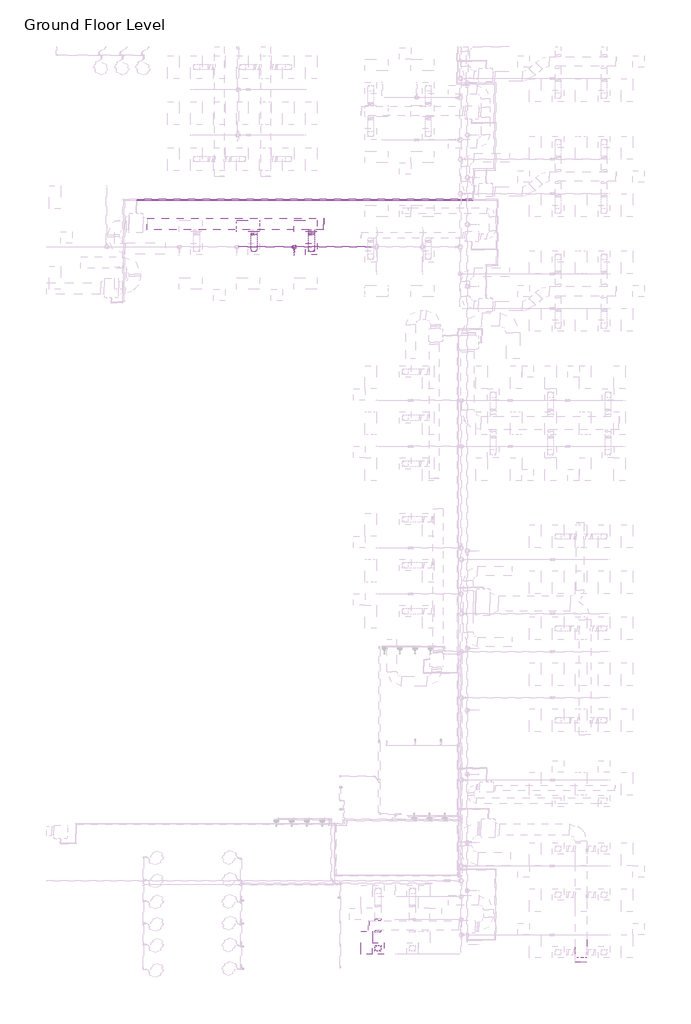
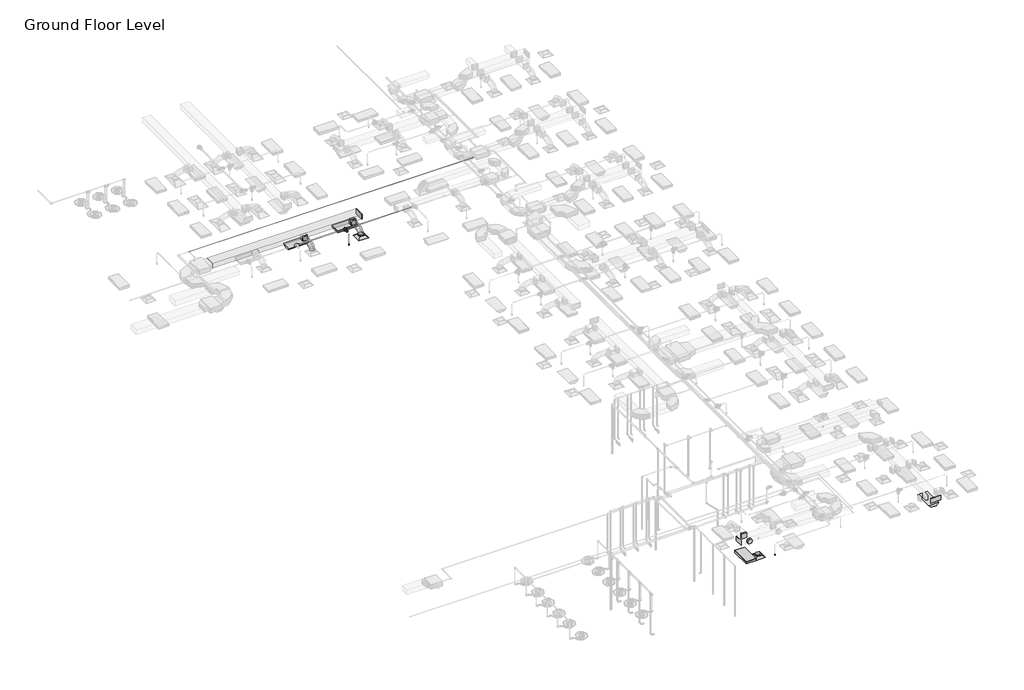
# One storey, part 13 of 74: 10 duct fittings, 6 pipe segments, 5 duct segments, 4 light fixtures, 2 air terminals, 2 fire suppression terminals, 2 pipe fittings.
"""IFC4 building model written with IfcOpenShell, lengths in millimetres."""

from ifc_helpers import new_model, si_unit, point, frame, frame_2d, origin, place, context, project, spatial, polyline, circle_curve, ellipse_curve, trimmed, segment, composite_curve, outline, extrude, transform, mapped, element, save
from ifc_brep_helpers import plane_surface, cylinder_surface, advanced_brep
from components import m_return_diffuser_600_x_600_face_300_x_300_connection_ff221211, m_rectangular_endcap_standard_72d4d00d, m_rectangular_endcap_standard_0f0ff112, m_rectangular_takeoff_standard_2be5eba1, m_rectangular_to_round_transition_angle_45_degree_641efff0, m_round_takeoff_standard_603b0510, m_sprinkler_dry_pendent_hosted_15_mm_dry_pendent_9bda8e11, m_emergency_recessed_lighting_fixture_600x1200_277_5b10b25d, m_troffer_light_parabolic_rectangular1_0600x1200mm_4_lamp_86473d4a, m_reducer_flanged_cs_class_150_standard_678fb8eb, m_tee_round_base_flanged_cs_class_150_standard_9c9133d0

model = new_model("IFC4")

# Units and contexts
model_context = context("Model", 3, world=origin())
ifc_project = project(units=[si_unit("LENGTHUNIT", "METRE", prefix="MILLI")], contexts=[model_context])

# Site, building, storey
site = spatial("IfcSite", under=ifc_project)
building = spatial("IfcBuilding", under=site)
storey = spatial("IfcBuildingStorey", under=building, Name="Ground Floor Level", Elevation=900.0)

# Air terminals
placement = place(None, origin())
m_return_diffuser_600_x_600_face_300_x_300_connection_shape = m_return_diffuser_600_x_600_face_300_x_300_connection_ff221211(model_context)
element("IfcAirTerminal", 1, ObjectType="M_Supply Diffuser : 600 x 600 Face 300 x 300 Connection", at=placement, inside=storey, context=model_context, shape_type="MappedRepresentation", body=[
    mapped(m_return_diffuser_600_x_600_face_300_x_300_connection_shape, transform((-2137.2327605, -3064.7846466, 3650.0), x_axis=(1.0, 0.0, 0.0), y_axis=(0.0, 1.0, 0.0), z_axis=(0.0, 0.0, 1.0))),
])
element("IfcAirTerminal", 2, ObjectType="M_Supply Diffuser : 600 x 600 Face 300 x 300 Connection", at=placement, inside=storey, context=model_context, shape_type="MappedRepresentation", body=[
    mapped(m_return_diffuser_600_x_600_face_300_x_300_connection_shape, transform((1342.7672394, -39564.7846466, 3650.0), x_axis=(1.0, 0.0, 0.0), y_axis=(0.0, 1.0, 0.0), z_axis=(0.0, 0.0, 1.0))),
])

# Duct fittings
m_rectangular_endcap_standard_shape = m_rectangular_endcap_standard_72d4d00d(model_context)
element("IfcDuctFitting", 3, ObjectType="M_Rectangular Endcap : Standard", at=placement, inside=storey, context=model_context, shape_type="MappedRepresentation", body=[
    mapped(m_rectangular_endcap_standard_shape, transform((877.3672394, -38372.6128682, 4100.0), x_axis=(-0.9999999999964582, 0.0, -2.6615447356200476e-06), y_axis=(0.0, -1.0000000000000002, 0.0), z_axis=(-2.6615447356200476e-06, 0.0, 0.9999999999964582))),
])
m_rectangular_endcap_standard_2_shape = m_rectangular_endcap_standard_0f0ff112(model_context)
element("IfcDuctFitting", 4, ObjectType="M_Rectangular Endcap : Standard", at=placement, inside=storey, context=model_context, shape_type="MappedRepresentation", body=[
    mapped(m_rectangular_endcap_standard_2_shape, transform((-1501.8327605, -1768.2846466, 4099.9873731), x_axis=(0.9999999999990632, 0.0, -1.368824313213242e-06), y_axis=(0.0, 1.0, 0.0), z_axis=(1.368824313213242e-06, 0.0, 0.9999999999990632))),
])
element("IfcDuctFitting", 5, ObjectType="M_Rectangular Endcap : Standard", at=placement, inside=storey, context=model_context, shape_type="MappedRepresentation", body=[
    mapped(m_rectangular_endcap_standard_2_shape, transform((11933.8644074, -40264.7726336, 4099.9875), x_axis=(0.0, -1.0, 0.0), y_axis=(1.0, 0.0, 0.0), z_axis=(0.0, 0.0, 1.0))),
])
m_rectangular_takeoff_standard_shape = m_rectangular_takeoff_standard_2be5eba1(model_context)
element("IfcDuctFitting", 6, ObjectType="M_Rectangular Takeoff : Standard", at=placement, inside=storey, context=model_context, shape_type="MappedRepresentation", body=[
    mapped(m_rectangular_takeoff_standard_shape, transform((-2137.2327605, -2068.2846466, 4099.9882429), x_axis=(0.0, -1.0, 0.0), y_axis=(-1.0, 0.0, 0.0), z_axis=(0.0, 0.0, -1.0))),
])
element("IfcDuctFitting", 7, ObjectType="M_Rectangular Takeoff : Standard", at=placement, inside=storey, context=model_context, shape_type="MappedRepresentation", body=[
    mapped(m_rectangular_takeoff_standard_shape, transform((1342.7672394, -38122.6128682, 4100.0), x_axis=(0.0, 1.0, 0.0), y_axis=(1.0, 0.0, 0.0), z_axis=(0.0, 0.0, -1.0))),
])
m_rectangular_to_round_transition_angle_45_degree_shape = m_rectangular_to_round_transition_angle_45_degree_641efff0(model_context)
element("IfcDuctFitting", 8, ObjectType="M_Rectangular to Round Transition - Angle : 45 Degree", at=placement, inside=storey, context=model_context, shape_type="MappedRepresentation", body=[
    mapped(m_rectangular_to_round_transition_angle_45_degree_shape, transform((-2137.2327605, -3064.7846466, 3751.6), x_axis=(0.0, 0.0, 1.0), y_axis=(-1.0, 0.0, 0.0), z_axis=(0.0, -1.0, 0.0))),
])
element("IfcDuctFitting", 9, ObjectType="M_Rectangular to Round Transition - Angle : 45 Degree", at=placement, inside=storey, context=model_context, shape_type="MappedRepresentation", body=[
    mapped(m_rectangular_to_round_transition_angle_45_degree_shape, transform((-2137.2327605, -2237.4369582, 4099.9882429), x_axis=(0.0, -1.0, 0.0), y_axis=(1.0, 0.0, 0.0), z_axis=(0.0, 0.0, 1.0))),
])
element("IfcDuctFitting", 10, ObjectType="M_Rectangular to Round Transition - Angle : 45 Degree", at=placement, inside=storey, context=model_context, shape_type="MappedRepresentation", body=[
    mapped(m_rectangular_to_round_transition_angle_45_degree_shape, transform((-5137.2327605, -2237.4410647, 4099.9923494), x_axis=(0.0, -1.0, 0.0), y_axis=(1.0, 0.0, 0.0), z_axis=(0.0, 0.0, 1.0))),
])
element("IfcDuctFitting", 11, ObjectType="M_Rectangular to Round Transition - Angle : 45 Degree", at=placement, inside=storey, context=model_context, shape_type="MappedRepresentation", body=[
    mapped(m_rectangular_to_round_transition_angle_45_degree_shape, transform((1342.7672394, -39564.7846466, 3751.6), x_axis=(0.0, 0.0, 1.0), y_axis=(-1.0, 0.0, 0.0), z_axis=(0.0, -1.0, 0.0))),
])
m_round_takeoff_standard_shape = m_round_takeoff_standard_603b0510(model_context)
element("IfcDuctFitting", 12, ObjectType="M_Round Takeoff : Standard", at=placement, inside=storey, context=model_context, shape_type="MappedRepresentation", body=[
    mapped(m_round_takeoff_standard_shape, transform((1342.7672394, -38622.6128682, 4100.0), x_axis=(0.0, -1.0, 0.0), y_axis=(-1.0, 0.0, 0.0), z_axis=(0.0, 0.0, -1.0))),
])

# Duct segments
element("IfcDuctSegment", 13, ObjectType="Flex - Round", at=placement, inside=storey, context=model_context, shape_type="AdvancedBrep", body=[
    advanced_brep(
    [(-1987.2327605, -3064.7846466, 3826.6), (-2137.2327605, -3214.7846466, 3826.6), (-2287.2327605, -3064.7846466, 3826.6), (-2137.2327605, -2914.7846466, 3826.6), (-1987.2327605, -3064.7846466, 3857.9382049), (-2137.2327605, -3214.7846466, 3883.5820304), (-2287.2327605, -3064.7846466, 3857.9382049), (-2137.2327605, -2914.7846466, 3832.2943795), (-1987.2327605, -3047.768388, 3906.2507872), (-2137.2327605, -3181.5056265, 3978.0678652), (-2287.2327605, -3047.768388, 3906.2507872), (-2137.2327605, -2914.0311496, 3834.4337093), (-1987.2327605, -3000.5836201, 3968.710775), (-2137.2327605, -3104.787507, 4079.622096), (-2287.2327605, -3000.5836201, 3968.710775), (-2137.2327605, -2896.3797333, 3857.7994541), (-1987.2327605, -2929.0263545, 4016.0680579), (-2137.2327605, -2997.957239, 4150.3233892), (-2287.2327605, -2929.0263545, 4016.0680579), (-2137.2327605, -2860.09547, 3881.8127266), (-1987.2327605, -2838.8926027, 4050.4107303), (-2137.2327605, -2882.4498996, 4194.3338808), (-2287.2327605, -2838.8926027, 4050.4107303), (-2137.2327605, -2795.3353058, 3906.4875799), (-1987.2327605, -2735.9783764, 4073.8268868), (-2137.2327605, -2762.5360145, 4221.6179832), (-2287.2327605, -2735.9783764, 4073.8268868), (-2137.2327605, -2709.4207382, 3926.0357904), (-1987.2327605, -2626.0796872, 4088.4046218), (-2137.2327605, -2641.2277335, 4237.7091667), (-2287.2327605, -2626.0796872, 4088.4046218), (-2137.2327605, -2610.9316408, 3939.1000769), (-1987.2327605, -2514.9925467, 4096.2320299), (-2137.2327605, -2522.4956529, 4246.0752516), (-2287.2327605, -2514.9925467, 4096.2320299), (-2137.2327605, -2507.4894404, 3946.3888082), (-1987.2327605, -2408.5129665, 4099.3972054), (-2137.2327605, -2411.2031539, 4249.3834943), (-2287.2327605, -2408.5129665, 4099.3972054), (-2137.2327605, -2405.822779, 3949.4109165), (-1987.2327605, -2312.4369582, 4099.9882429), (-2137.2327605, -2311.5142102, 3949.9910811), (-2287.2327605, -2312.4369582, 4099.9882429), (-2137.2327605, -2313.3597063, 4249.9854047)],
    [
        (0, 1, circle_curve(frame((-2137.2327605, -3064.7846466, 3826.6), z_axis=(0.0, 0.0, -1.0), x_axis=(1.0, 0.0, 0.0)), 150.0)),
        (1, 2, circle_curve(frame((-2137.2327605, -3064.7846466, 3826.6), z_axis=(0.0, 0.0, -1.0), x_axis=(1.0, 0.0, 0.0)), 150.0)),
        (2, 3, circle_curve(frame((-2137.2327605, -3064.7846466, 3826.6), z_axis=(0.0, 0.0, -1.0), x_axis=(1.0, 0.0, 0.0)), 150.0)),
        (3, 0, circle_curve(frame((-2137.2327605, -3064.7846466, 3826.6), z_axis=(0.0, 0.0, -1.0), x_axis=(1.0, 0.0, 0.0)), 150.0)),
        (0, 4),
        (4, 5, ellipse_curve(frame((-2137.2327605, -3064.7846466, 3857.9382049), z_axis=(0.0, -0.1685139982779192, -0.9856992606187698), x_axis=(0.0, 0.9856992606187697, -0.1685139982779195)), 152.1762326, 150.0)),
        (5, 1),
        (5, 6, ellipse_curve(frame((-2137.2327605, -3064.7846466, 3857.9382049), z_axis=(0.0, -0.1685139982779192, -0.9856992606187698), x_axis=(0.0, 0.9856992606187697, -0.1685139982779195)), 152.1762326, 150.0)),
        (6, 2),
        (6, 7, ellipse_curve(frame((-2137.2327605, -3064.7846466, 3857.9382049), z_axis=(0.0, -0.1685139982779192, -0.9856992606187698), x_axis=(0.0, 0.9856992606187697, -0.1685139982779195)), 152.1762326, 150.0)),
        (7, 3),
        (7, 4, ellipse_curve(frame((-2137.2327605, -3064.7846466, 3857.9382049), z_axis=(0.0, -0.1685139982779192, -0.9856992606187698), x_axis=(0.0, 0.9856992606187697, -0.1685139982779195)), 152.1762326, 150.0)),
        (4, 8),
        (8, 9, ellipse_curve(frame((-2137.2327605, -3047.768388, 3906.2507872), z_axis=(0.0, -0.4731022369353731, -0.8810075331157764), x_axis=(0.0, 0.8810075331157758, -0.47310223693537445)), 151.8003348, 150.0)),
        (9, 5),
        (9, 10, ellipse_curve(frame((-2137.2327605, -3047.768388, 3906.2507872), z_axis=(0.0, -0.4731022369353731, -0.8810075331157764), x_axis=(0.0, 0.8810075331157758, -0.47310223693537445)), 151.8003348, 150.0)),
        (10, 6),
        (10, 11, ellipse_curve(frame((-2137.2327605, -3047.768388, 3906.2507872), z_axis=(0.0, -0.4731022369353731, -0.8810075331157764), x_axis=(0.0, 0.8810075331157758, -0.47310223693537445)), 151.8003348, 150.0)),
        (11, 7),
        (11, 8, ellipse_curve(frame((-2137.2327605, -3047.768388, 3906.2507872), z_axis=(0.0, -0.4731022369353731, -0.8810075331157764), x_axis=(0.0, 0.8810075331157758, -0.47310223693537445)), 151.8003348, 150.0)),
        (8, 12),
        (12, 13, ellipse_curve(frame((-2137.2327605, -3000.5836201, 3968.710775), z_axis=(0.0, -0.728800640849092, -0.6847259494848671), x_axis=(0.0, 0.6847259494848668, -0.7288006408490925)), 152.1833472, 150.0)),
        (13, 9),
        (13, 14, ellipse_curve(frame((-2137.2327605, -3000.5836201, 3968.710775), z_axis=(0.0, -0.728800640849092, -0.6847259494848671), x_axis=(0.0, 0.6847259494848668, -0.7288006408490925)), 152.1833472, 150.0)),
        (14, 10),
        (14, 15, ellipse_curve(frame((-2137.2327605, -3000.5836201, 3968.710775), z_axis=(0.0, -0.728800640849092, -0.6847259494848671), x_axis=(0.0, 0.6847259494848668, -0.7288006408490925)), 152.1833472, 150.0)),
        (15, 11),
        (15, 12, ellipse_curve(frame((-2137.2327605, -3000.5836201, 3968.710775), z_axis=(0.0, -0.728800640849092, -0.6847259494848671), x_axis=(0.0, 0.6847259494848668, -0.7288006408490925)), 152.1833472, 150.0)),
        (12, 16),
        (16, 17, ellipse_curve(frame((-2137.2327605, -2929.0263545, 4016.0680579), z_axis=(0.0, -0.8895967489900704, -0.456746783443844), x_axis=(0.0, 0.45674678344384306, -0.8895967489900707)), 150.917066, 150.0)),
        (17, 13),
        (17, 18, ellipse_curve(frame((-2137.2327605, -2929.0263545, 4016.0680579), z_axis=(0.0, -0.8895967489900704, -0.456746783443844), x_axis=(0.0, 0.45674678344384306, -0.8895967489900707)), 150.917066, 150.0)),
        (18, 14),
        (18, 19, ellipse_curve(frame((-2137.2327605, -2929.0263545, 4016.0680579), z_axis=(0.0, -0.8895967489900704, -0.456746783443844), x_axis=(0.0, 0.45674678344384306, -0.8895967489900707)), 150.917066, 150.0)),
        (19, 15),
        (19, 16, ellipse_curve(frame((-2137.2327605, -2929.0263545, 4016.0680579), z_axis=(0.0, -0.8895967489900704, -0.456746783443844), x_axis=(0.0, 0.45674678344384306, -0.8895967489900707)), 150.917066, 150.0)),
        (16, 20),
        (20, 21, ellipse_curve(frame((-2137.2327605, -2838.8926027, 4050.4107303), z_axis=(0.0, -0.9571272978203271, -0.2896676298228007), x_axis=(0.0, 0.28966762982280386, -0.957127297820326)), 150.369915, 150.0)),
        (21, 17),
        (21, 22, ellipse_curve(frame((-2137.2327605, -2838.8926027, 4050.4107303), z_axis=(0.0, -0.9571272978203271, -0.2896676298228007), x_axis=(0.0, 0.28966762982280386, -0.957127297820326)), 150.369915, 150.0)),
        (22, 18),
        (22, 23, ellipse_curve(frame((-2137.2327605, -2838.8926027, 4050.4107303), z_axis=(0.0, -0.9571272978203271, -0.2896676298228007), x_axis=(0.0, 0.28966762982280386, -0.957127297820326)), 150.369915, 150.0)),
        (23, 19),
        (23, 20, ellipse_curve(frame((-2137.2327605, -2838.8926027, 4050.4107303), z_axis=(0.0, -0.9571272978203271, -0.2896676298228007), x_axis=(0.0, 0.28966762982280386, -0.957127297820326)), 150.369915, 150.0)),
        (20, 24),
        (24, 25, ellipse_curve(frame((-2137.2327605, -2735.9783764, 4073.8268868), z_axis=(0.0, -0.9842352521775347, -0.1768642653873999), x_axis=(0.0, 0.1768642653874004, -0.9842352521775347)), 150.1583042, 150.0)),
        (25, 21),
        (25, 26, ellipse_curve(frame((-2137.2327605, -2735.9783764, 4073.8268868), z_axis=(0.0, -0.9842352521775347, -0.1768642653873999), x_axis=(0.0, 0.1768642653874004, -0.9842352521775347)), 150.1583042, 150.0)),
        (26, 22),
        (26, 27, ellipse_curve(frame((-2137.2327605, -2735.9783764, 4073.8268868), z_axis=(0.0, -0.9842352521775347, -0.1768642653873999), x_axis=(0.0, 0.1768642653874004, -0.9842352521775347)), 150.1583042, 150.0)),
        (27, 23),
        (27, 24, ellipse_curve(frame((-2137.2327605, -2735.9783764, 4073.8268868), z_axis=(0.0, -0.9842352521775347, -0.1768642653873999), x_axis=(0.0, 0.1768642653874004, -0.9842352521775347)), 150.1583042, 150.0)),
        (24, 28),
        (28, 29, ellipse_curve(frame((-2137.2327605, -2626.0796872, 4088.4046218), z_axis=(0.0, -0.9948925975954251, -0.10093918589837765), x_axis=(0.0, 0.10093918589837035, -0.9948925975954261)), 150.071018, 150.0)),
        (29, 25),
        (29, 30, ellipse_curve(frame((-2137.2327605, -2626.0796872, 4088.4046218), z_axis=(0.0, -0.9948925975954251, -0.10093918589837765), x_axis=(0.0, 0.10093918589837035, -0.9948925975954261)), 150.071018, 150.0)),
        (30, 26),
        (30, 31, ellipse_curve(frame((-2137.2327605, -2626.0796872, 4088.4046218), z_axis=(0.0, -0.9948925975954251, -0.10093918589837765), x_axis=(0.0, 0.10093918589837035, -0.9948925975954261)), 150.071018, 150.0)),
        (31, 27),
        (31, 28, ellipse_curve(frame((-2137.2327605, -2626.0796872, 4088.4046218), z_axis=(0.0, -0.9948925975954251, -0.10093918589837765), x_axis=(0.0, 0.10093918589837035, -0.9948925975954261)), 150.071018, 150.0)),
        (28, 32),
        (32, 33, ellipse_curve(frame((-2137.2327605, -2514.9925467, 4096.2320299), z_axis=(0.0, -0.9987486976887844, -0.050010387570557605), x_axis=(0.0, 0.05001038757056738, -0.9987486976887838)), 150.0309558, 150.0)),
        (33, 29),
        (33, 34, ellipse_curve(frame((-2137.2327605, -2514.9925467, 4096.2320299), z_axis=(0.0, -0.9987486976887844, -0.050010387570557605), x_axis=(0.0, 0.05001038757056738, -0.9987486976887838)), 150.0309558, 150.0)),
        (34, 30),
        (34, 35, ellipse_curve(frame((-2137.2327605, -2514.9925467, 4096.2320299), z_axis=(0.0, -0.9987486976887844, -0.050010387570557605), x_axis=(0.0, 0.05001038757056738, -0.9987486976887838)), 150.0309558, 150.0)),
        (35, 31),
        (35, 32, ellipse_curve(frame((-2137.2327605, -2514.9925467, 4096.2320299), z_axis=(0.0, -0.9987486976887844, -0.050010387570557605), x_axis=(0.0, 0.05001038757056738, -0.9987486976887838)), 150.0309558, 150.0)),
        (32, 36),
        (36, 37, ellipse_curve(frame((-2137.2327605, -2408.5129665, 4099.3972054), z_axis=(0.0, -0.9998391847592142, -0.017933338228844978), x_axis=(0.0, 0.017933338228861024, -0.9998391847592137)), 150.0104128, 150.0)),
        (37, 33),
        (37, 38, ellipse_curve(frame((-2137.2327605, -2408.5129665, 4099.3972054), z_axis=(0.0, -0.9998391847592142, -0.017933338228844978), x_axis=(0.0, 0.017933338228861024, -0.9998391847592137)), 150.0104128, 150.0)),
        (38, 34),
        (38, 39, ellipse_curve(frame((-2137.2327605, -2408.5129665, 4099.3972054), z_axis=(0.0, -0.9998391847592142, -0.017933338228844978), x_axis=(0.0, 0.017933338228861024, -0.9998391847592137)), 150.0104128, 150.0)),
        (39, 35),
        (39, 36, ellipse_curve(frame((-2137.2327605, -2408.5129665, 4099.3972054), z_axis=(0.0, -0.9998391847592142, -0.017933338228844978), x_axis=(0.0, 0.017933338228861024, -0.9998391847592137)), 150.0104128, 150.0)),
        (40, 41, circle_curve(frame((-2137.2327605, -2312.4369582, 4099.9882429), z_axis=(0.0, 0.9999810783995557, 0.006151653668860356), x_axis=(1.0, 0.0, 0.0)), 150.0)),
        (41, 42, circle_curve(frame((-2137.2327605, -2312.4369582, 4099.9882429), z_axis=(0.0, 0.9999810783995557, 0.006151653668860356), x_axis=(1.0, 0.0, 0.0)), 150.0)),
        (42, 43, circle_curve(frame((-2137.2327605, -2312.4369582, 4099.9882429), z_axis=(0.0, 0.9999810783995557, 0.006151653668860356), x_axis=(1.0, 0.0, 0.0)), 150.0)),
        (43, 40, circle_curve(frame((-2137.2327605, -2312.4369582, 4099.9882429), z_axis=(0.0, 0.9999810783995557, 0.006151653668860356), x_axis=(1.0, 0.0, 0.0)), 150.0)),
        (36, 40),
        (43, 37),
        (42, 38),
        (41, 39),
    ],
    [
        plane_surface(frame((-2137.2327605, -3214.7846466, 3826.6), z_axis=(0.0, 0.0, -1.0), x_axis=(1.0, 0.0, 0.0))),
        cylinder_surface(frame((-2137.2327605, -3064.7846466, 3826.6), z_axis=(0.0, 0.0, -1.0), x_axis=(1.0, 0.0, 0.0)), 150.0),
        cylinder_surface(frame((-2137.2327605, -3064.7846466, 3857.9382049), z_axis=(0.0, -0.33220824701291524, -0.9432060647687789), x_axis=(1.0, 0.0, 0.0)), 150.0),
        cylinder_surface(frame((-2137.2327605, -3047.768388, 3906.2507872), z_axis=(0.0, -0.6027743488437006, -0.7979117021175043), x_axis=(1.0, 0.0, 0.0)), 150.0),
        cylinder_surface(frame((-2137.2327605, -3000.5836201, 3968.710775), z_axis=(0.0, -0.83391498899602, -0.5518929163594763), x_axis=(1.0, 0.0, 0.0)), 150.0),
        cylinder_surface(frame((-2137.2327605, -2929.0263545, 4016.0680579), z_axis=(0.0, -0.9344670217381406, -0.3560496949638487), x_axis=(1.0, 0.0, 0.0)), 150.0),
        cylinder_surface(frame((-2137.2327605, -2838.8926027, 4050.4107303), z_axis=(0.0, -0.9750784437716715, -0.2218603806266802), x_axis=(1.0, 0.0, 0.0)), 150.0),
        cylinder_surface(frame((-2137.2327605, -2735.9783764, 4073.8268868), z_axis=(0.0, -0.9913168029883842, -0.13149523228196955), x_axis=(1.0, 0.0, 0.0)), 150.0),
        cylinder_surface(frame((-2137.2327605, -2626.0796872, 4088.4046218), z_axis=(0.0, -0.9975267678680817, -0.07028760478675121), x_axis=(1.0, 0.0, 0.0)), 150.0),
        cylinder_surface(frame((-2137.2327605, -2514.9925467, 4096.2320299), z_axis=(0.0, -0.9995584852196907, -0.02971253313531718), x_axis=(1.0, 0.0, 0.0)), 150.0),
        plane_surface(frame((-2137.2327605, -2313.3597063, 4249.9854047), z_axis=(0.0, 0.9999810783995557, 0.006151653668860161), x_axis=(1.0, 0.0, 0.0))),
        cylinder_surface(frame((-2137.2327605, -2408.5129665, 4099.3972054), z_axis=(0.0, -0.9999810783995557, -0.006151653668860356), x_axis=(1.0, 0.0, 0.0)), 150.0),
    ],
    [
        (0, [[1, 2, 3, 4]]),
        (1, [[-1, 5, 6, 7]]),
        (1, [[-2, -7, 8, 9]]),
        (1, [[-3, -9, 10, 11]]),
        (1, [[-4, -11, 12, -5]]),
        (2, [[-6, 13, 14, 15]]),
        (2, [[-8, -15, 16, 17]]),
        (2, [[-10, -17, 18, 19]]),
        (2, [[-12, -19, 20, -13]]),
        (3, [[-14, 21, 22, 23]]),
        (3, [[-16, -23, 24, 25]]),
        (3, [[-18, -25, 26, 27]]),
        (3, [[-20, -27, 28, -21]]),
        (4, [[-22, 29, 30, 31]]),
        (4, [[-24, -31, 32, 33]]),
        (4, [[-26, -33, 34, 35]]),
        (4, [[-28, -35, 36, -29]]),
        (5, [[-30, 37, 38, 39]]),
        (5, [[-32, -39, 40, 41]]),
        (5, [[-34, -41, 42, 43]]),
        (5, [[-36, -43, 44, -37]]),
        (6, [[-38, 45, 46, 47]]),
        (6, [[-40, -47, 48, 49]]),
        (6, [[-42, -49, 50, 51]]),
        (6, [[-44, -51, 52, -45]]),
        (7, [[-46, 53, 54, 55]]),
        (7, [[-48, -55, 56, 57]]),
        (7, [[-50, -57, 58, 59]]),
        (7, [[-52, -59, 60, -53]]),
        (8, [[-54, 61, 62, 63]]),
        (8, [[-56, -63, 64, 65]]),
        (8, [[-58, -65, 66, 67]]),
        (8, [[-60, -67, 68, -61]]),
        (9, [[-62, 69, 70, 71]]),
        (9, [[-64, -71, 72, 73]]),
        (9, [[-66, -73, 74, 75]]),
        (9, [[-68, -75, 76, -69]]),
        (10, [[77, 78, 79, 80]]),
        (11, [[-70, 81, -80, 82]]),
        (11, [[-72, -82, -79, 83]]),
        (11, [[-74, -83, -78, 84]]),
        (11, [[-76, -84, -77, -81]]),
    ],
),
])
element("IfcDuctSegment", 14, ObjectType="Flex - Round", at=placement, inside=storey, context=model_context, shape_type="AdvancedBrep", body=[
    advanced_brep(
    [(-4987.2327605, -3064.7846466, 3826.6), (-5137.2327605, -3214.7846466, 3826.6), (-5287.2327605, -3064.7846466, 3826.6), (-5137.2327605, -2914.7846466, 3826.6), (-4987.2327605, -3064.7846466, 3857.9380326), (-5137.2327605, -3214.7846466, 3883.5816473), (-5287.2327605, -3064.7846466, 3857.9380326), (-5137.2327605, -2914.7846466, 3832.2944178), (-4987.2327605, -3047.7685019, 3906.2507123), (-5137.2327605, -3181.505999, 3978.0672475), (-5287.2327605, -3047.7685019, 3906.2507123), (-5137.2327605, -2914.0310048, 3834.4341772), (-4987.2327605, -3000.584044, 3968.710963), (-5137.2327605, -3104.7886338, 4079.6215744), (-5287.2327605, -3000.584044, 3968.710963), (-5137.2327605, -2896.3794543, 3857.8003516), (-4987.2327605, -2929.0272371, 4016.0687585), (-5137.2327605, -2997.9592292, 4150.3235149), (-5287.2327605, -2929.0272371, 4016.0687585), (-5137.2327605, -2860.095245, 3881.8140022), (-4987.2327605, -2838.8940455, 4050.4121057), (-5137.2327605, -2882.4525531, 4194.3348919), (-5287.2327605, -2838.8940455, 4050.4121057), (-5137.2327605, -2795.3355379, 3906.4893195), (-4987.2327605, -2735.9804334, 4073.8290112), (-5137.2327605, -2762.5392192, 4221.6199045), (-5287.2327605, -2735.9804334, 4073.8290112), (-5137.2327605, -2709.4216475, 3926.0381179), (-4987.2327605, -2626.082365, 4088.4074817), (-5137.2327605, -2641.2314089, 4237.7119283), (-5287.2327605, -2626.082365, 4088.4074817), (-5137.2327605, -2610.9333211, 3939.103035), (-4987.2327605, -2514.9958046, 4096.2355237), (-5137.2327605, -2522.4996869, 4246.0787092), (-5287.2327605, -2514.9958046, 4096.2355237), (-5137.2327605, -2507.4919223, 3946.3923382), (-4987.2327605, -2408.5167164, 4099.4011441), (-5137.2327605, -2411.2073599, 4249.387427), (-5287.2327605, -2408.5167164, 4099.4011441), (-5137.2327605, -2405.8260729, 3949.4148611), (-4987.2327605, -2312.4410647, 4099.9923494), (-5137.2327605, -2311.5180513, 3949.9951892), (-5287.2327605, -2312.4410647, 4099.9923494), (-5137.2327605, -2313.3640781, 4249.9895095)],
    [
        (0, 1, circle_curve(frame((-5137.2327605, -3064.7846466, 3826.6), z_axis=(0.0, 0.0, -1.0), x_axis=(1.0, 0.0, 0.0)), 150.0)),
        (1, 2, circle_curve(frame((-5137.2327605, -3064.7846466, 3826.6), z_axis=(0.0, 0.0, -1.0), x_axis=(1.0, 0.0, 0.0)), 150.0)),
        (2, 3, circle_curve(frame((-5137.2327605, -3064.7846466, 3826.6), z_axis=(0.0, 0.0, -1.0), x_axis=(1.0, 0.0, 0.0)), 150.0)),
        (3, 0, circle_curve(frame((-5137.2327605, -3064.7846466, 3826.6), z_axis=(0.0, 0.0, -1.0), x_axis=(1.0, 0.0, 0.0)), 150.0)),
        (0, 4),
        (4, 5, ellipse_curve(frame((-5137.2327605, -3064.7846466, 3857.9380326), z_axis=(0.0, -0.16851265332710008, -0.9856994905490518), x_axis=(0.0, 0.9856994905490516, -0.16851265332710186)), 152.1761971, 150.0)),
        (5, 1),
        (5, 6, ellipse_curve(frame((-5137.2327605, -3064.7846466, 3857.9380326), z_axis=(0.0, -0.16851265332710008, -0.9856994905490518), x_axis=(0.0, 0.9856994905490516, -0.16851265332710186)), 152.1761971, 150.0)),
        (6, 2),
        (6, 7, ellipse_curve(frame((-5137.2327605, -3064.7846466, 3857.9380326), z_axis=(0.0, -0.16851265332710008, -0.9856994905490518), x_axis=(0.0, 0.9856994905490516, -0.16851265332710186)), 152.1761971, 150.0)),
        (7, 3),
        (7, 4, ellipse_curve(frame((-5137.2327605, -3064.7846466, 3857.9380326), z_axis=(0.0, -0.16851265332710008, -0.9856994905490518), x_axis=(0.0, 0.9856994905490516, -0.16851265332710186)), 152.1761971, 150.0)),
        (4, 8),
        (8, 9, ellipse_curve(frame((-5137.2327605, -3047.7685019, 3906.2507123), z_axis=(0.0, -0.47309875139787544, -0.881009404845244), x_axis=(0.0, 0.8810094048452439, -0.47309875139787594)), 151.8003058, 150.0)),
        (9, 5),
        (9, 10, ellipse_curve(frame((-5137.2327605, -3047.7685019, 3906.2507123), z_axis=(0.0, -0.47309875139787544, -0.881009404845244), x_axis=(0.0, 0.8810094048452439, -0.47309875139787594)), 151.8003058, 150.0)),
        (10, 6),
        (10, 11, ellipse_curve(frame((-5137.2327605, -3047.7685019, 3906.2507123), z_axis=(0.0, -0.47309875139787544, -0.881009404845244), x_axis=(0.0, 0.8810094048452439, -0.47309875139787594)), 151.8003058, 150.0)),
        (11, 7),
        (11, 8, ellipse_curve(frame((-5137.2327605, -3047.7685019, 3906.2507123), z_axis=(0.0, -0.47309875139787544, -0.881009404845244), x_axis=(0.0, 0.8810094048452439, -0.47309875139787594)), 151.8003058, 150.0)),
        (8, 12),
        (12, 13, ellipse_curve(frame((-5137.2327605, -3000.584044, 3968.710963), z_axis=(0.0, -0.7287961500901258, -0.6847307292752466), x_axis=(0.0, 0.6847307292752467, -0.7287961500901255)), 152.1833113, 150.0)),
        (13, 9),
        (13, 14, ellipse_curve(frame((-5137.2327605, -3000.584044, 3968.710963), z_axis=(0.0, -0.7287961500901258, -0.6847307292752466), x_axis=(0.0, 0.6847307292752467, -0.7287961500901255)), 152.1833113, 150.0)),
        (14, 10),
        (14, 15, ellipse_curve(frame((-5137.2327605, -3000.584044, 3968.710963), z_axis=(0.0, -0.7287961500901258, -0.6847307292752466), x_axis=(0.0, 0.6847307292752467, -0.7287961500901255)), 152.1833113, 150.0)),
        (15, 11),
        (15, 12, ellipse_curve(frame((-5137.2327605, -3000.584044, 3968.710963), z_axis=(0.0, -0.7287961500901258, -0.6847307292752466), x_axis=(0.0, 0.6847307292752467, -0.7287961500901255)), 152.1833113, 150.0)),
        (12, 16),
        (16, 17, ellipse_curve(frame((-5137.2327605, -2929.0272371, 4016.0687585), z_axis=(0.0, -0.8895929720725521, -0.4567541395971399), x_axis=(0.0, 0.45675413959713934, -0.8895929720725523)), 150.9170604, 150.0)),
        (17, 13),
        (17, 18, ellipse_curve(frame((-5137.2327605, -2929.0272371, 4016.0687585), z_axis=(0.0, -0.8895929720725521, -0.4567541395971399), x_axis=(0.0, 0.45675413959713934, -0.8895929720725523)), 150.9170604, 150.0)),
        (18, 14),
        (18, 19, ellipse_curve(frame((-5137.2327605, -2929.0272371, 4016.0687585), z_axis=(0.0, -0.8895929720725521, -0.4567541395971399), x_axis=(0.0, 0.45675413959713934, -0.8895929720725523)), 150.9170604, 150.0)),
        (19, 15),
        (19, 16, ellipse_curve(frame((-5137.2327605, -2929.0272371, 4016.0687585), z_axis=(0.0, -0.8895929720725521, -0.4567541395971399), x_axis=(0.0, 0.45675413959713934, -0.8895929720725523)), 150.9170604, 150.0)),
        (16, 20),
        (20, 21, ellipse_curve(frame((-5137.2327605, -2838.8940455, 4050.4121057), z_axis=(0.0, -0.9571248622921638, -0.2896756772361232), x_axis=(0.0, 0.28967567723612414, -0.9571248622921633)), 150.3699171, 150.0)),
        (21, 17),
        (21, 22, ellipse_curve(frame((-5137.2327605, -2838.8940455, 4050.4121057), z_axis=(0.0, -0.9571248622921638, -0.2896756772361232), x_axis=(0.0, 0.28967567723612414, -0.9571248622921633)), 150.3699171, 150.0)),
        (22, 18),
        (22, 23, ellipse_curve(frame((-5137.2327605, -2838.8940455, 4050.4121057), z_axis=(0.0, -0.9571248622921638, -0.2896756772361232), x_axis=(0.0, 0.28967567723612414, -0.9571248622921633)), 150.3699171, 150.0)),
        (23, 19),
        (23, 20, ellipse_curve(frame((-5137.2327605, -2838.8940455, 4050.4121057), z_axis=(0.0, -0.9571248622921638, -0.2896756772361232), x_axis=(0.0, 0.28967567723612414, -0.9571248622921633)), 150.3699171, 150.0)),
        (20, 24),
        (24, 25, ellipse_curve(frame((-5137.2327605, -2735.9804334, 4073.8290112), z_axis=(0.0, -0.984233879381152, -0.17687190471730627), x_axis=(0.0, 0.17687190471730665, -0.984233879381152)), 150.1583073, 150.0)),
        (25, 21),
        (25, 26, ellipse_curve(frame((-5137.2327605, -2735.9804334, 4073.8290112), z_axis=(0.0, -0.984233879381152, -0.17687190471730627), x_axis=(0.0, 0.17687190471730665, -0.984233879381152)), 150.1583073, 150.0)),
        (26, 22),
        (26, 27, ellipse_curve(frame((-5137.2327605, -2735.9804334, 4073.8290112), z_axis=(0.0, -0.984233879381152, -0.17687190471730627), x_axis=(0.0, 0.17687190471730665, -0.984233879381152)), 150.1583073, 150.0)),
        (27, 23),
        (27, 24, ellipse_curve(frame((-5137.2327605, -2735.9804334, 4073.8290112), z_axis=(0.0, -0.984233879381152, -0.17687190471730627), x_axis=(0.0, 0.17687190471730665, -0.984233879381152)), 150.1583073, 150.0)),
        (24, 28),
        (28, 29, ellipse_curve(frame((-5137.2327605, -2626.082365, 4088.4074817), z_axis=(0.0, -0.9948919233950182, -0.1009458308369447), x_axis=(0.0, 0.10094583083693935, -0.9948919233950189)), 150.0710209, 150.0)),
        (29, 25),
        (29, 30, ellipse_curve(frame((-5137.2327605, -2626.082365, 4088.4074817), z_axis=(0.0, -0.9948919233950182, -0.1009458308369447), x_axis=(0.0, 0.10094583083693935, -0.9948919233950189)), 150.0710209, 150.0)),
        (30, 26),
        (30, 31, ellipse_curve(frame((-5137.2327605, -2626.082365, 4088.4074817), z_axis=(0.0, -0.9948919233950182, -0.1009458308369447), x_axis=(0.0, 0.10094583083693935, -0.9948919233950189)), 150.0710209, 150.0)),
        (31, 27),
        (31, 28, ellipse_curve(frame((-5137.2327605, -2626.082365, 4088.4074817), z_axis=(0.0, -0.9948919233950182, -0.1009458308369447), x_axis=(0.0, 0.10094583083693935, -0.9948919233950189)), 150.0710209, 150.0)),
        (28, 32),
        (32, 33, ellipse_curve(frame((-5137.2327605, -2514.9958046, 4096.2355237), z_axis=(0.0, -0.9987484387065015, -0.05001555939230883), x_axis=(0.0, 0.05001555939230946, -0.9987484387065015)), 150.0309584, 150.0)),
        (33, 29),
        (33, 34, ellipse_curve(frame((-5137.2327605, -2514.9958046, 4096.2355237), z_axis=(0.0, -0.9987484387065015, -0.05001555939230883), x_axis=(0.0, 0.05001555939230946, -0.9987484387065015)), 150.0309584, 150.0)),
        (34, 30),
        (34, 35, ellipse_curve(frame((-5137.2327605, -2514.9958046, 4096.2355237), z_axis=(0.0, -0.9987484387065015, -0.05001555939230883), x_axis=(0.0, 0.05001555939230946, -0.9987484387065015)), 150.0309584, 150.0)),
        (35, 31),
        (35, 32, ellipse_curve(frame((-5137.2327605, -2514.9958046, 4096.2355237), z_axis=(0.0, -0.9987484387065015, -0.05001555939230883), x_axis=(0.0, 0.05001555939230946, -0.9987484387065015)), 150.0309584, 150.0)),
        (32, 36),
        (36, 37, ellipse_curve(frame((-5137.2327605, -2408.5167164, 4099.4011441), z_axis=(0.0, -0.9998391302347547, -0.01793637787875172), x_axis=(0.0, 0.017936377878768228, -0.9998391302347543)), 150.0104151, 150.0)),
        (37, 33),
        (37, 38, ellipse_curve(frame((-5137.2327605, -2408.5167164, 4099.4011441), z_axis=(0.0, -0.9998391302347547, -0.01793637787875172), x_axis=(0.0, 0.017936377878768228, -0.9998391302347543)), 150.0104151, 150.0)),
        (38, 34),
        (38, 39, ellipse_curve(frame((-5137.2327605, -2408.5167164, 4099.4011441), z_axis=(0.0, -0.9998391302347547, -0.01793637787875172), x_axis=(0.0, 0.017936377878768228, -0.9998391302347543)), 150.0104151, 150.0)),
        (39, 35),
        (39, 36, ellipse_curve(frame((-5137.2327605, -2408.5167164, 4099.4011441), z_axis=(0.0, -0.9998391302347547, -0.01793637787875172), x_axis=(0.0, 0.017936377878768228, -0.9998391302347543)), 150.0104151, 150.0)),
        (40, 41, circle_curve(frame((-5137.2327605, -2312.4410647, 4099.9923494), z_axis=(0.0, 0.9999810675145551, 0.0061534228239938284), x_axis=(1.0, 0.0, 0.0)), 150.0)),
        (41, 42, circle_curve(frame((-5137.2327605, -2312.4410647, 4099.9923494), z_axis=(0.0, 0.9999810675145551, 0.0061534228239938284), x_axis=(1.0, 0.0, 0.0)), 150.0)),
        (42, 43, circle_curve(frame((-5137.2327605, -2312.4410647, 4099.9923494), z_axis=(0.0, 0.9999810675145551, 0.0061534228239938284), x_axis=(1.0, 0.0, 0.0)), 150.0)),
        (43, 40, circle_curve(frame((-5137.2327605, -2312.4410647, 4099.9923494), z_axis=(0.0, 0.9999810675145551, 0.0061534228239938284), x_axis=(1.0, 0.0, 0.0)), 150.0)),
        (36, 40),
        (43, 37),
        (42, 38),
        (41, 39),
    ],
    [
        plane_surface(frame((-5137.2327605, -3214.7846466, 3826.6), z_axis=(0.0, 0.0, -1.0), x_axis=(1.0, 0.0, 0.0))),
        cylinder_surface(frame((-5137.2327605, -3064.7846466, 3826.6), z_axis=(0.0, 0.0, -1.0), x_axis=(1.0, 0.0, 0.0)), 150.0),
        cylinder_surface(frame((-5137.2327605, -3064.7846466, 3857.9380326), z_axis=(0.0, -0.33220567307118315, -0.9432069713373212), x_axis=(1.0, 0.0, 0.0)), 150.0),
        cylinder_surface(frame((-5137.2327605, -3047.7685019, 3906.2507123), z_axis=(0.0, -0.6027702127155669, -0.797914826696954), x_axis=(1.0, 0.0, 0.0)), 150.0),
        cylinder_surface(frame((-5137.2327605, -3000.584044, 3968.710963), z_axis=(0.0, -0.8339106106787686, -0.5518995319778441), x_axis=(1.0, 0.0, 0.0)), 150.0),
        cylinder_surface(frame((-5137.2327605, -2929.0272371, 4016.0687585), z_axis=(0.0, -0.9344639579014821, -0.3560577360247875), x_axis=(1.0, 0.0, 0.0)), 150.0),
        cylinder_surface(frame((-5137.2327605, -2838.8940455, 4050.4121057), z_axis=(0.0, -0.9750766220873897, -0.22186838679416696), x_axis=(1.0, 0.0, 0.0)), 150.0),
        cylinder_surface(frame((-5137.2327605, -2735.9804334, 4073.8290112), z_axis=(0.0, -0.9913158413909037, -0.13150248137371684), x_axis=(1.0, 0.0, 0.0)), 150.0),
        cylinder_surface(frame((-5137.2327605, -2626.082365, 4088.4074817), z_axis=(0.0, -0.9975263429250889, -0.07029363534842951), x_axis=(1.0, 0.0, 0.0)), 150.0),
        cylinder_surface(frame((-5137.2327605, -2514.9958046, 4096.2355237), z_axis=(0.0, -0.9995583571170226, -0.029716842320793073), x_axis=(1.0, 0.0, 0.0)), 150.0),
        plane_surface(frame((-5137.2327605, -2313.3640781, 4249.9895095), z_axis=(0.0, 0.9999810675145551, 0.006153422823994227), x_axis=(1.0, 0.0, 0.0))),
        cylinder_surface(frame((-5137.2327605, -2408.5167164, 4099.4011441), z_axis=(0.0, -0.9999810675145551, -0.0061534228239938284), x_axis=(1.0, 0.0, 0.0)), 150.0),
    ],
    [
        (0, [[1, 2, 3, 4]]),
        (1, [[-1, 5, 6, 7]]),
        (1, [[-2, -7, 8, 9]]),
        (1, [[-3, -9, 10, 11]]),
        (1, [[-4, -11, 12, -5]]),
        (2, [[-6, 13, 14, 15]]),
        (2, [[-8, -15, 16, 17]]),
        (2, [[-10, -17, 18, 19]]),
        (2, [[-12, -19, 20, -13]]),
        (3, [[-14, 21, 22, 23]]),
        (3, [[-16, -23, 24, 25]]),
        (3, [[-18, -25, 26, 27]]),
        (3, [[-20, -27, 28, -21]]),
        (4, [[-22, 29, 30, 31]]),
        (4, [[-24, -31, 32, 33]]),
        (4, [[-26, -33, 34, 35]]),
        (4, [[-28, -35, 36, -29]]),
        (5, [[-30, 37, 38, 39]]),
        (5, [[-32, -39, 40, 41]]),
        (5, [[-34, -41, 42, 43]]),
        (5, [[-36, -43, 44, -37]]),
        (6, [[-38, 45, 46, 47]]),
        (6, [[-40, -47, 48, 49]]),
        (6, [[-42, -49, 50, 51]]),
        (6, [[-44, -51, 52, -45]]),
        (7, [[-46, 53, 54, 55]]),
        (7, [[-48, -55, 56, 57]]),
        (7, [[-50, -57, 58, 59]]),
        (7, [[-52, -59, 60, -53]]),
        (8, [[-54, 61, 62, 63]]),
        (8, [[-56, -63, 64, 65]]),
        (8, [[-58, -65, 66, 67]]),
        (8, [[-60, -67, 68, -61]]),
        (9, [[-62, 69, 70, 71]]),
        (9, [[-64, -71, 72, 73]]),
        (9, [[-66, -73, 74, 75]]),
        (9, [[-68, -75, 76, -69]]),
        (10, [[77, 78, 79, 80]]),
        (11, [[-70, 81, -80, 82]]),
        (11, [[-72, -82, -79, 83]]),
        (11, [[-74, -83, -78, 84]]),
        (11, [[-76, -84, -77, -81]]),
    ],
),
])
element("IfcDuctSegment", 15, ObjectType="Flex - Round", at=placement, inside=storey, context=model_context, shape_type="AdvancedBrep", body=[
    advanced_brep(
    [(1492.7672394, -39564.7846466, 3826.6), (1342.7672394, -39714.7846466, 3826.6), (1192.7672394, -39564.7846466, 3826.6), (1342.7672394, -39414.7846466, 3826.6), (1492.7672394, -39564.7846466, 3860.5958413), (1342.7672394, -39414.7846466, 3830.2822637), (1192.7672394, -39564.7846466, 3860.5958413), (1342.7672394, -39714.7846466, 3890.9094188)],
    [
        (0, 1, circle_curve(frame((1342.7672394, -39564.7846466, 3826.6), z_axis=(0.0, 0.0, -1.0), x_axis=(1.0, 0.0, 0.0)), 150.0)),
        (1, 2, circle_curve(frame((1342.7672394, -39564.7846466, 3826.6), z_axis=(0.0, 0.0, -1.0), x_axis=(1.0, 0.0, 0.0)), 150.0)),
        (2, 3, circle_curve(frame((1342.7672394, -39564.7846466, 3826.6), z_axis=(0.0, 0.0, -1.0), x_axis=(1.0, 0.0, 0.0)), 150.0)),
        (3, 0, circle_curve(frame((1342.7672394, -39564.7846466, 3826.6), z_axis=(0.0, 0.0, -1.0), x_axis=(1.0, 0.0, 0.0)), 150.0)),
        (4, 5, ellipse_curve(frame((1342.7672394, -39564.7846466, 3860.5958413), z_axis=(0.0, 0.19808602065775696, 0.9801846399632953), x_axis=(0.0, 0.9801846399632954, -0.19808602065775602)), 153.0323919, 150.0)),
        (5, 6, ellipse_curve(frame((1342.7672394, -39564.7846466, 3860.5958413), z_axis=(0.0, 0.19808602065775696, 0.9801846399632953), x_axis=(0.0, 0.9801846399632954, -0.19808602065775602)), 153.0323919, 150.0)),
        (6, 7, ellipse_curve(frame((1342.7672394, -39564.7846466, 3860.5958413), z_axis=(0.0, 0.19808602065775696, 0.9801846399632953), x_axis=(0.0, 0.9801846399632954, -0.19808602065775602)), 153.0323919, 150.0)),
        (7, 4, ellipse_curve(frame((1342.7672394, -39564.7846466, 3860.5958413), z_axis=(0.0, 0.19808602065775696, 0.9801846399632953), x_axis=(0.0, 0.9801846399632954, -0.19808602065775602)), 153.0323919, 150.0)),
        (0, 4),
        (7, 1),
        (6, 2),
        (5, 3),
    ],
    [
        plane_surface(frame((1342.7672394, -39714.7846466, 3826.6), z_axis=(0.0, 0.0, -1.0), x_axis=(1.0, 0.0, 0.0))),
        plane_surface(frame((1492.7672394, -39564.7846466, 3860.5958413), z_axis=(0.0, 0.19808602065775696, 0.9801846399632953), x_axis=(0.0, 0.9801846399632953, -0.19808602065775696))),
        cylinder_surface(frame((1342.7672394, -39564.7846466, 3826.6), z_axis=(0.0, 0.0, -1.0), x_axis=(1.0, 0.0, 0.0)), 150.0),
    ],
    [
        (0, [[1, 2, 3, 4]]),
        (1, [[5, 6, 7, 8]]),
        (2, [[-1, 9, -8, 10]]),
        (2, [[-2, -10, -7, 11]]),
        (2, [[-3, -11, -6, 12]]),
        (2, [[-4, -12, -5, -9]]),
    ],
),
])
element("IfcDuctSegment", 16, ObjectType="Radius Elbows / Taps", at=placement, inside=storey, context=model_context, shape_type="SweptSolid", body=[
    extrude(outline(polyline([(0.0, -600.0), (0.0, 0.0), (9224.5995898, 0.0), (9224.5995898, -600.0), (0.0, -600.0)])), frame((-10726.4325556, -1468.2846466, 3950.0), z_axis=(1.3688243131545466e-06, 0.0, 0.9999999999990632), x_axis=(0.9999999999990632, 0.0, -1.3688243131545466e-06)), (0.0, 0.0, 1.0), 300.0),
])
element("IfcDuctSegment", 17, ObjectType="Radius Elbows / Taps", at=placement, inside=storey, context=model_context, shape_type="SweptSolid", body=[
    extrude(outline(polyline([(-2287.2327605, -2169.8846466), (-1987.2327605, -2169.8846466), (-1987.2327605, -2237.4369582), (-2287.2327605, -2237.4369582), (-2287.2327605, -2169.8846466)])), frame((0.0, 0.0, 3949.9882429), z_axis=(0.0, 0.0, 1.0), x_axis=(1.0, 0.0, 0.0)), (0.0, 0.0, 1.0), 300.0),
])

# Fire suppression terminals
m_sprinkler_dry_pendent_hosted_15_mm_dry_pendent_shape = m_sprinkler_dry_pendent_hosted_15_mm_dry_pendent_9bda8e11(model_context)
element("IfcFireSuppressionTerminal", 18, ObjectType="M_Sprinkler - Dry - Pendent - Hosted : 15 mm Dry Pendent", at=placement, inside=storey, context=model_context, shape_type="MappedRepresentation", body=[
    mapped(m_sprinkler_dry_pendent_hosted_15_mm_dry_pendent_shape, transform((-3037.2327605, -3364.7846466, 3650.0), x_axis=(1.0, 0.0, 0.0), y_axis=(0.0, -1.0, 0.0), z_axis=(0.0, 0.0, -1.0))),
])
element("IfcFireSuppressionTerminal", 19, ObjectType="M_Sprinkler - Dry - Pendent - Hosted : 15 mm Dry Pendent", at=placement, inside=storey, context=model_context, shape_type="MappedRepresentation", body=[
    mapped(m_sprinkler_dry_pendent_hosted_15_mm_dry_pendent_shape, transform((2242.7672394, -39864.7846466, 3650.0), x_axis=(1.0, 0.0, 0.0), y_axis=(0.0, -1.0, 0.0), z_axis=(0.0, 0.0, -1.0))),
])

# Light fixtures
m_emergency_recessed_lighting_fixture_600x1200_277_shape = m_emergency_recessed_lighting_fixture_600x1200_277_5b10b25d(model_context)
element("IfcLightFixture", 20, ObjectType="M_Emergency Recessed Lighting Fixture : 600x1200 - 277", at=placement, inside=storey, context=model_context, shape_type="MappedRepresentation", body=[
    mapped(m_emergency_recessed_lighting_fixture_600x1200_277_shape, transform((-6037.2327605, -1564.7846466, 3650.0), x_axis=(1.0, 0.0, 0.0), y_axis=(0.0, 1.0, 0.0), z_axis=(0.0, 0.0, 1.0))),
])
element("IfcLightFixture", 21, ObjectType="M_Emergency Recessed Lighting Fixture : 600x1200 - 277", at=placement, inside=storey, context=model_context, shape_type="MappedRepresentation", body=[
    mapped(m_emergency_recessed_lighting_fixture_600x1200_277_shape, transform((11643.0482736, -40064.7846466, 3650.0), x_axis=(0.0, 1.0, 0.0), y_axis=(-1.0, 0.0, 0.0), z_axis=(0.0, 0.0, 1.0))),
])
m_troffer_light_parabolic_rectangular1_0600x1200mm_4_lamp_shape = m_troffer_light_parabolic_rectangular1_0600x1200mm_4_lamp_86473d4a(model_context)
element("IfcLightFixture", 22, ObjectType="M_Troffer Light - Parabolic Rectangular1 : 0600x1200mm(4 Lamp) - 277V 2", at=placement, inside=storey, context=model_context, shape_type="MappedRepresentation", body=[
    mapped(m_troffer_light_parabolic_rectangular1_0600x1200mm_4_lamp_shape, transform((-2418.5292589, -1805.3187145, 3650.0), x_axis=(1.0, 0.0, 0.0), y_axis=(0.0, 1.0, 0.0), z_axis=(0.0, 0.0, 1.0))),
])
element("IfcLightFixture", 23, ObjectType="M_Troffer Light - Parabolic Rectangular1 : 0600x1200mm(4 Lamp) - 277V 2", at=placement, inside=storey, context=model_context, shape_type="MappedRepresentation", body=[
    mapped(m_troffer_light_parabolic_rectangular1_0600x1200mm_4_lamp_shape, transform((683.3013073, -39246.081145, 3650.0), x_axis=(0.0, 1.0, 0.0), y_axis=(-1.0, 0.0, 0.0), z_axis=(0.0, 0.0, 1.0))),
])

# Pipe fittings
m_reducer_flanged_cs_class_150_standard_shape = m_reducer_flanged_cs_class_150_standard_678fb8eb(model_context)
element("IfcPipeFitting", 24, ObjectType="M_Reducer - Flanged - CS - Class 150 : Standard", at=placement, inside=storey, context=model_context, shape_type="MappedRepresentation", body=[
    mapped(m_reducer_flanged_cs_class_150_standard_shape, transform((-3037.2327605, -3056.447793, 4360.0), x_axis=(0.0, -1.0, 0.0), y_axis=(1.0, 0.0, 0.0), z_axis=(0.0, 0.0, 1.0))),
])
m_tee_round_base_flanged_cs_class_150_standard_shape = m_tee_round_base_flanged_cs_class_150_standard_9c9133d0(model_context)
element("IfcPipeFitting", 25, ObjectType="M_Tee Round Base - Flanged - CS - Class 150 : Standard", at=placement, inside=storey, context=model_context, shape_type="MappedRepresentation", body=[
    mapped(m_tee_round_base_flanged_cs_class_150_standard_shape, transform((-3037.2327605, -2950.3491993, 4360.0), x_axis=(1.0, 0.0, 0.0), y_axis=(0.0, 1.0, 0.0), z_axis=(0.0, 0.0, 1.0))),
])

# Pipe segments
element("IfcPipeSegment", 26, ObjectType="Copper", at=placement, inside=storey, context=model_context, shape_type="SweptSolid", body=[
    extrude(outline(composite_curve([segment(trimmed(circle_curve(frame_2d((-465.9814862, 4265.0)), 6.5), [point((-459.4814862, 4265.0))], [point((-465.9814862, 4258.5))], False, "CARTESIAN"), True, "CONTINUOUS"), segment(trimmed(circle_curve(frame_2d((-465.9814862, 4265.0)), 6.5), [point((-465.9814862, 4258.5))], [point((-472.4814862, 4265.0))], False, "CARTESIAN"), True, "CONTINUOUS"), segment(trimmed(circle_curve(frame_2d((-465.9814862, 4265.0)), 6.5), [point((-472.4814862, 4265.0))], [point((-465.9814862, 4271.5))], False, "CARTESIAN"), True, "CONTINUOUS"), segment(trimmed(circle_curve(frame_2d((-465.9814862, 4265.0)), 6.5), [point((-465.9814862, 4271.5))], [point((-459.4814862, 4265.0))], False, "CARTESIAN"), True, "CONTINUOUS")], self_intersect=False)), frame((-11251.5952605, 0.0, 0.0), z_axis=(1.0, 0.0, 0.0), x_axis=(0.0, 1.0, 0.0)), (0.0, 0.0, 1.0), 17527.0672757),
])
element("IfcPipeSegment", 27, ObjectType="Copper", at=placement, inside=storey, context=model_context, shape_type="SweptSolid", body=[
    extrude(outline(composite_curve([segment(trimmed(circle_curve(frame_2d((-523.9901455, 4300.0)), 9.75), [point((-514.2401455, 4300.0))], [point((-523.9901455, 4290.25))], False, "CARTESIAN"), True, "CONTINUOUS"), segment(trimmed(circle_curve(frame_2d((-523.9901455, 4300.0)), 9.75), [point((-523.9901455, 4290.25))], [point((-533.7401455, 4300.0))], False, "CARTESIAN"), True, "CONTINUOUS"), segment(trimmed(circle_curve(frame_2d((-523.9901455, 4300.0)), 9.75), [point((-533.7401455, 4300.0))], [point((-523.9901455, 4309.75))], False, "CARTESIAN"), True, "CONTINUOUS"), segment(trimmed(circle_curve(frame_2d((-523.9901455, 4300.0)), 9.75), [point((-523.9901455, 4309.75))], [point((-514.2401455, 4300.0))], False, "CARTESIAN"), True, "CONTINUOUS")], self_intersect=False)), frame((-11273.4202605, 0.0, 0.0), z_axis=(1.0, 0.0, 0.0), x_axis=(0.0, 1.0, 0.0)), (0.0, 0.0, 1.0), 17596.9913099),
])
element("IfcPipeSegment", 28, ObjectType="Steel flanged", at=placement, inside=storey, context=model_context, shape_type="SweptSolid", body=[
    extrude(outline(composite_curve([segment(trimmed(circle_curve(frame_2d((-3037.2327605, -3364.7846466)), 10.668), [point((-3047.9007605, -3364.7846466))], [point((-3037.2327605, -3354.1166466))], False, "CARTESIAN"), True, "CONTINUOUS"), segment(trimmed(circle_curve(frame_2d((-3037.2327605, -3364.7846466)), 10.668), [point((-3037.2327605, -3354.1166466))], [point((-3026.5647605, -3364.7846466))], False, "CARTESIAN"), True, "CONTINUOUS"), segment(trimmed(circle_curve(frame_2d((-3037.2327605, -3364.7846466)), 10.668), [point((-3026.5647605, -3364.7846466))], [point((-3037.2327605, -3375.4526466))], False, "CARTESIAN"), True, "CONTINUOUS"), segment(trimmed(circle_curve(frame_2d((-3037.2327605, -3364.7846466)), 10.668), [point((-3037.2327605, -3375.4526466))], [point((-3047.9007605, -3364.7846466))], False, "CARTESIAN"), True, "CONTINUOUS")], self_intersect=False)), frame((0.0, 0.0, 3650.0), z_axis=(0.0, 0.0, 1.0), x_axis=(1.0, 0.0, 0.0)), (0.0, 0.0, 1.0), 616.9914062),
])
element("IfcPipeSegment", 29, ObjectType="Steel flanged", at=placement, inside=storey, context=model_context, shape_type="SweptSolid", body=[
    extrude(outline(composite_curve([segment(trimmed(circle_curve(frame_2d((4360.0, -3037.2327605)), 10.668), [point((4360.0, -3026.5647605))], [point((4370.668, -3037.2327605))], False, "CARTESIAN"), True, "CONTINUOUS"), segment(trimmed(circle_curve(frame_2d((4360.0, -3037.2327605)), 10.668), [point((4370.668, -3037.2327605))], [point((4360.0, -3047.9007605))], False, "CARTESIAN"), True, "CONTINUOUS"), segment(trimmed(circle_curve(frame_2d((4360.0, -3037.2327605)), 10.668), [point((4360.0, -3047.9007605))], [point((4349.332, -3037.2327605))], False, "CARTESIAN"), True, "CONTINUOUS"), segment(trimmed(circle_curve(frame_2d((4360.0, -3037.2327605)), 10.668), [point((4349.332, -3037.2327605))], [point((4360.0, -3026.5647605))], False, "CARTESIAN"), True, "CONTINUOUS")], self_intersect=False)), frame((0.0, -3271.7760529, 0.0), z_axis=(0.0, 1.0, 0.0), x_axis=(0.0, 0.0, 1.0)), (0.0, 0.0, 1.0), 101.3282598),
])
element("IfcPipeSegment", 30, ObjectType="Steel flanged", at=placement, inside=storey, context=model_context, shape_type="SweptSolid", body=[
    extrude(outline(composite_curve([segment(trimmed(circle_curve(frame_2d((-2950.3491993, 4360.0)), 21.082), [point((-2929.2671993, 4360.0))], [point((-2950.3491993, 4338.918))], False, "CARTESIAN"), True, "CONTINUOUS"), segment(trimmed(circle_curve(frame_2d((-2950.3491993, 4360.0)), 21.082), [point((-2950.3491993, 4338.918))], [point((-2971.4311993, 4360.0))], False, "CARTESIAN"), True, "CONTINUOUS"), segment(trimmed(circle_curve(frame_2d((-2950.3491993, 4360.0)), 21.082), [point((-2971.4311993, 4360.0))], [point((-2950.3491993, 4381.082))], False, "CARTESIAN"), True, "CONTINUOUS"), segment(trimmed(circle_curve(frame_2d((-2950.3491993, 4360.0)), 21.082), [point((-2950.3491993, 4381.082))], [point((-2929.2671993, 4360.0))], False, "CARTESIAN"), True, "CONTINUOUS")], self_intersect=False)), frame((-2931.1341668, 0.0, 0.0), z_axis=(1.0, 0.0, 0.0), x_axis=(0.0, 1.0, 0.0)), (0.0, 0.0, 1.0), 3977.9014063),
])
element("IfcPipeSegment", 31, ObjectType="Steel flanged", at=placement, inside=storey, context=model_context, shape_type="SweptSolid", body=[
    extrude(outline(composite_curve([segment(trimmed(circle_curve(frame_2d((-2950.3491993, 4360.0)), 21.082), [point((-2929.2671993, 4360.0))], [point((-2950.3491993, 4338.918))], False, "CARTESIAN"), True, "CONTINUOUS"), segment(trimmed(circle_curve(frame_2d((-2950.3491993, 4360.0)), 21.082), [point((-2950.3491993, 4338.918))], [point((-2971.4311993, 4360.0))], False, "CARTESIAN"), True, "CONTINUOUS"), segment(trimmed(circle_curve(frame_2d((-2950.3491993, 4360.0)), 21.082), [point((-2971.4311993, 4360.0))], [point((-2950.3491993, 4381.082))], False, "CARTESIAN"), True, "CONTINUOUS"), segment(trimmed(circle_curve(frame_2d((-2950.3491993, 4360.0)), 21.082), [point((-2950.3491993, 4381.082))], [point((-2929.2671993, 4360.0))], False, "CARTESIAN"), True, "CONTINUOUS")], self_intersect=False)), frame((-5931.1341668, 0.0, 0.0), z_axis=(1.0, 0.0, 0.0), x_axis=(0.0, 1.0, 0.0)), (0.0, 0.0, 1.0), 2787.8028125),
])

save(model, "model.ifc")
